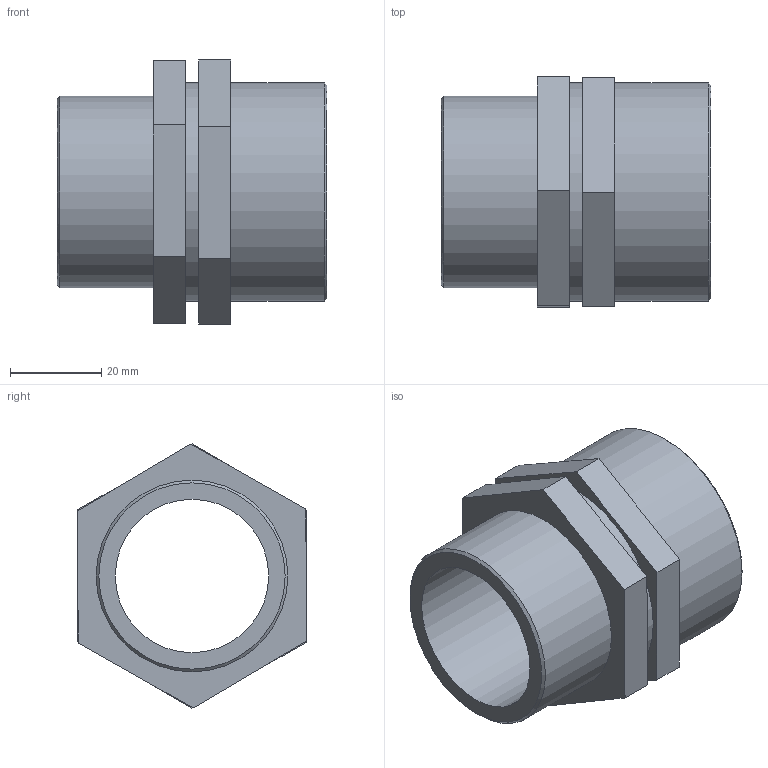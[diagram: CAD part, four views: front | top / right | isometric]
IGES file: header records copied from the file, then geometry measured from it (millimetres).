
Global section: file name: 050605015013_0506050150130A.ipt; native system: Autodesk Inventor 2015; preprocessor: unknown; author: KIM; date: 20170618.093232; units: millimetre
Bounding box: 59 x 50.27 x 57.73 mm (x, y, z)
Volume: 42002.4 mm3; surface area: 18675.2 mm2
Topology: 1 solids, 1 shells, 26 faces, 59 edges, 40 vertices
Faces by surface type: plane 19, cylinder 3, cone 2, revolution 2
Full cylindrical faces by diameter (mm): 41.91 x1, 47.803 x2
